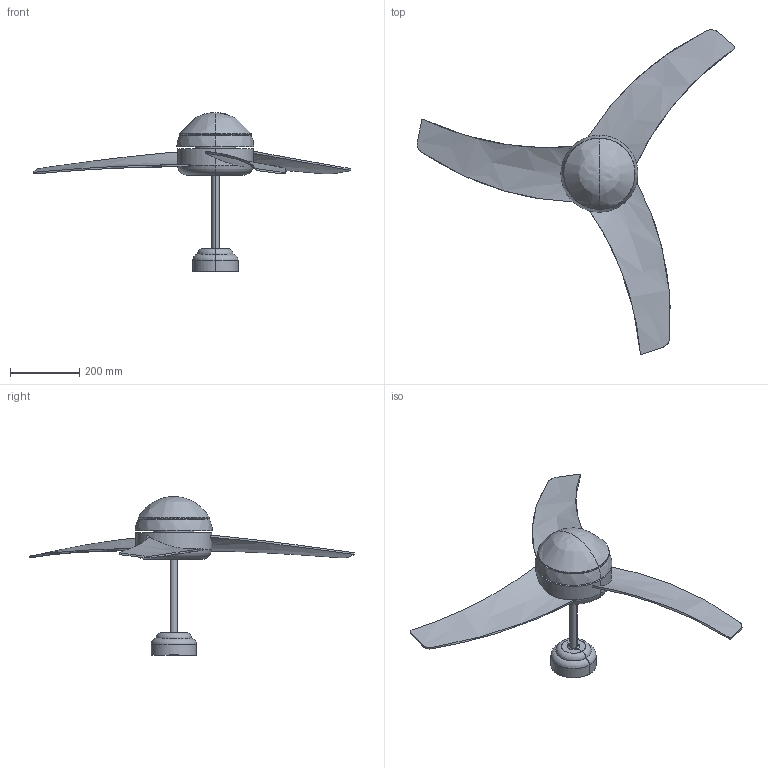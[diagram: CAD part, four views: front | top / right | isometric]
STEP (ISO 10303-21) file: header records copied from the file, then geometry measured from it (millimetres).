
FILE_DESCRIPTION(/* description */ (''),/* implementation_level */ '2;1');
FILE_NAME(/* name */ 'C:\Users\FrancoSartori\Documents\FARO\01_En Proceso\000_SOLICITUD INFO SIN PROCESAR\00_EASY\03_Publicación\33416.stp',/* time_stamp */ '2022-09-07T16:24:45+02:00',/* author */ ('FrancoSartori'),/* organization */ (''),/* preprocessor_version */ 'ST-DEVELOPER v19.2',/* originating_system */ 'AutoCAD Mechanical',/* authorisation */ '');
FILE_SCHEMA (('AUTOMOTIVE_DESIGN { 1 0 10303 214 3 1 1 }'));
Length unit declared in the file: millimetre
Products named in the file (2): Product; EASY_ - fan-482147-Export
Assembly tree (1 placements, depth 2):
  Product
    EASY_ - fan-482147-Export
Bounding box: 919.84 x 940.3 x 460 mm (x, y, z)
Volume: 6415979.2 mm3; surface area: 723171.6 mm2
Topology: 7 solids, 7 shells, 110 faces, 253 edges, 153 vertices
Faces by surface type: plane 45, cylinder 38, torus 15, bspline 12
Entity records: 5268 total; most frequent: CARTESIAN_POINT 2906, ORIENTED_EDGE 502, DIRECTION 417, EDGE_CURVE 251, VERTEX_POINT 153, AXIS2_PLACEMENT_3D 149, LINE 119, VECTOR 119
